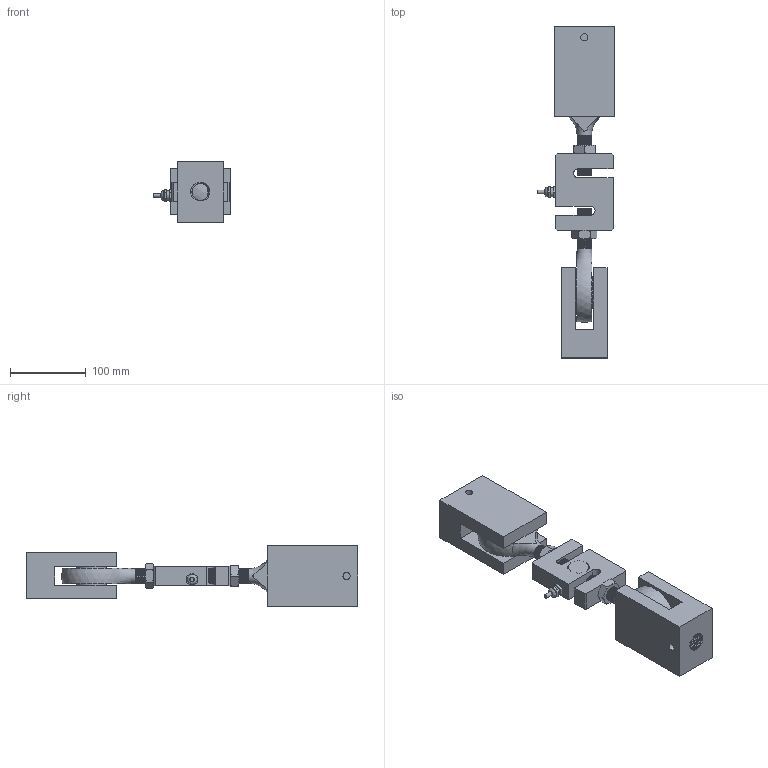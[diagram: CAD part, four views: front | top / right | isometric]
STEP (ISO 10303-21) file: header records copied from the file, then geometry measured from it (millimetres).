
FILE_DESCRIPTION(/* description */ (''),/* implementation_level */ '2;1');
FILE_NAME(/* name */ 'C:/Users/fardi/Dropbox/Work/Anyload/Load Cell Models/Product Catalog 3D/Weight Modules/101/101NHM2/101NHM2-10klb v2.step',/* time_stamp */ '2020-05-13T10:26:46-07:00',/* author */ (''),/* organization */ (''),/* preprocessor_version */ 'ST-DEVELOPER v18.1',/* originating_system */ 'Autodesk Translation Framework v9.3.0.1241',/* authorisation */ '');
FILE_SCHEMA (('AUTOMOTIVE_DESIGN { 1 0 10303 214 3 1 1 }'));
Products named in the file (9): 101NHM2-10klb; 101NH-(5-10)klb; Connector v1; Eye Bolt v2; 94846A540; End Block; Eye Bolt v2(Mirror); End Block(Mirror) (1); 94846A540(Mirror)
Assembly tree (8 placements, depth 3):
  101NHM2-10klb
    101NH-(5-10)klb
      Connector v1
    Eye Bolt v2
    94846A540
    End Block
    Eye Bolt v2(Mirror)
    End Block(Mirror) (1)
    94846A540(Mirror)
Bounding box: 102.03 x 438.6 x 80 mm (x, y, z)
Volume: 1208259.2 mm3; surface area: 195341.2 mm2
Topology: 8 solids, 11 shells, 442 faces, 1198 edges, 785 vertices
Faces by surface type: cylinder 291, plane 94, cone 32, bspline 17, sphere 6, torus 2
Full cylindrical faces by diameter (mm): 5.1 x1, 9.525 x2, 10 x1, 12 x1, 13 x1, 16.988 x10, 17.12 x64, 17.501 x24, 18.893 x64, 19.05 x36, 22.288 x22, 25.4 x22, 26.6 x1, 27.2 x2, 29.4 x2, 39 x4
Entity records: 42989 total; most frequent: CARTESIAN_POINT 32854, ORIENTED_EDGE 2396, DIRECTION 1570, EDGE_CURVE 1198, VERTEX_POINT 785, AXIS2_PLACEMENT_3D 573, B_SPLINE_CURVE_WITH_KNOTS 569, EDGE_LOOP 473
